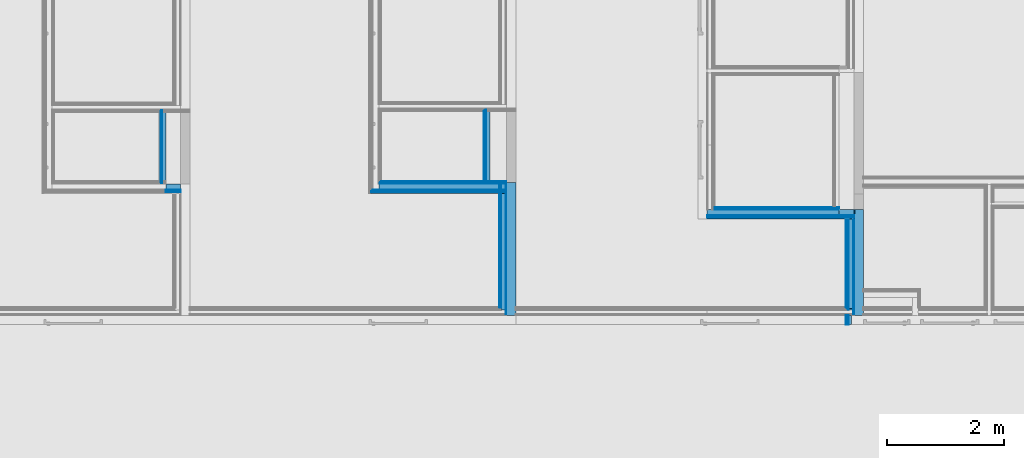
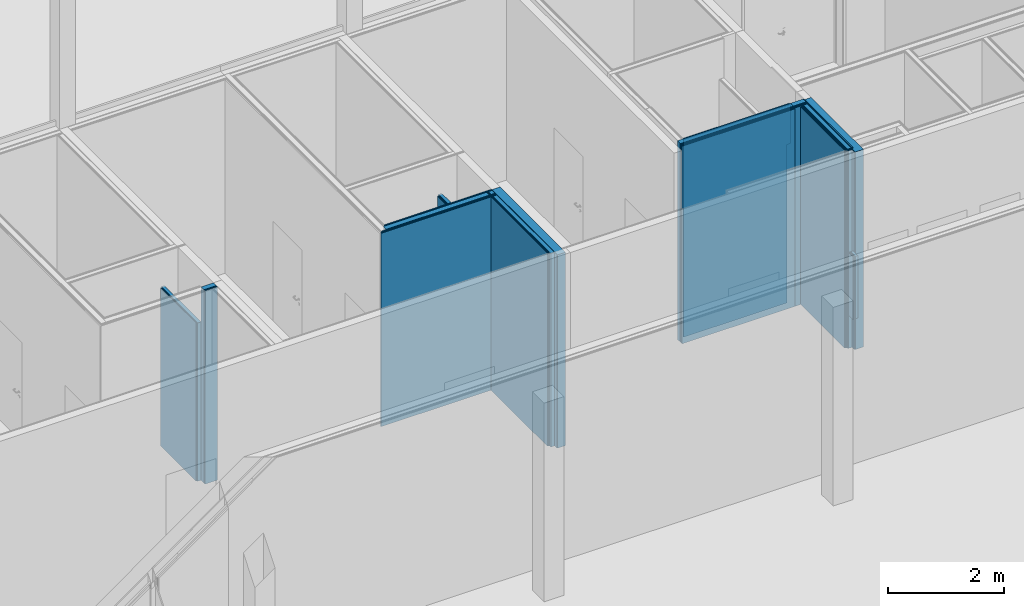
# One storey, part 161 of 260: 45 building element parts, 8 elements without a shape of their own.
"""IFC2X3 building model written with IfcOpenShell, lengths in millimetres."""

import ifcopenshell
import ifcopenshell.guid

model = None  # the IFC model being written
_history = None  # IfcOwnerHistory: only IFC2X3 demands one
_inside = {}  # id of a spatial element -> (the spatial element, [elements in it])
_under = {}  # id of a project, library or spatial element -> (it, [spatial elements below it])
_declared = {}  # id of a project -> (the project, [libraries it declares])
_typed = {}  # id of a type object -> (the type object, [elements of that type])
_made_of = {}  # id of a material, layer set ... -> (it, [elements and type objects made of it])


def new_model(schema):
    """Start an empty IFC model of exactly this schema.

    Asked for "IFC4X3", IfcOpenShell would pick the latest addendum, in which some entities
    have other attributes; the version numbers below select the first issue.
    IFC2X3 requires an IfcOwnerHistory on every rooted entity: one is made here for all.
    """
    global model, _history
    if schema == "IFC4X3":
        model = ifcopenshell.file(schema_version=(4, 3, 0, 0))
    else:
        model = ifcopenshell.file(schema=schema)
    _inside.clear()
    _under.clear()
    _declared.clear()
    _typed.clear()
    _made_of.clear()
    _history = None
    if model.schema == "IFC2X3":
        org = make("IfcOrganization", Name="unknown")
        user = make(
            "IfcPersonAndOrganization",
            ThePerson=make("IfcPerson", FamilyName="unknown"),
            TheOrganization=org,
        )
        app = make(
            "IfcApplication",
            ApplicationDeveloper=org,
            Version="unknown",
            ApplicationFullName="unknown",
            ApplicationIdentifier="unknown",
        )
        _history = make(
            "IfcOwnerHistory",
            OwningUser=user,
            OwningApplication=app,
            ChangeAction="ADDED",
            CreationDate=0,
        )
    return model


def make(cls, **values):
    """One entity of the class cls with the attributes given. An attribute that is None is left unset."""
    return model.create_entity(
        cls, **{name: value for name, value in values.items() if value is not None}
    )


def entity(cls, *values):
    """Any entity or typed value of the class cls, its attributes in the order of the schema. None: left unset."""
    e = model.create_entity(cls)
    for i, value in enumerate(values):
        if value is not None:
            e[i] = value
    return e


def rooted(cls, **values):
    """An entity with a GlobalId (a new one), such as an element, a storey or a relation."""
    return make(cls, GlobalId=ifcopenshell.guid.new(), OwnerHistory=_history, **values)


def si_unit(unit_type, name, prefix=None):
    """IfcSIUnit, for example si_unit("LENGTHUNIT", "METRE", prefix="MILLI")."""
    return make("IfcSIUnit", UnitType=unit_type, Prefix=prefix, Name=name)


def converted_unit(unit_type, name, factor, base, dimensions=None, offset=None):
    """IfcConversionBasedUnit, such as the inch: factor (a typed value) times the base unit."""
    return make(
        "IfcConversionBasedUnit"
        if offset is None
        else "IfcConversionBasedUnitWithOffset",
        ConversionOffset=offset,
        Dimensions=None
        if dimensions is None
        else entity("IfcDimensionalExponents", *dimensions),
        UnitType=unit_type,
        Name=name,
        ConversionFactor=make(
            "IfcMeasureWithUnit", ValueComponent=factor, UnitComponent=base
        ),
    )


def derived_unit(unit_type, elements):
    """IfcDerivedUnit: a product of units, each with its exponent."""
    return make(
        "IfcDerivedUnit",
        Elements=[
            make("IfcDerivedUnitElement", Unit=unit, Exponent=power)
            for unit, power in elements
        ],
        UnitType=unit_type,
    )


def money_unit(currency):
    """IfcMonetaryUnit."""
    return make("IfcMonetaryUnit", Currency=currency)


def assignment(units):
    """IfcUnitAssignment: the units of a project."""
    return None if units is None else make("IfcUnitAssignment", Units=units)


def point(xyz):
    """IfcCartesianPoint."""
    return None if xyz is None else make("IfcCartesianPoint", Coordinates=xyz)


def direction(xyz):
    """IfcDirection."""
    return None if xyz is None else make("IfcDirection", DirectionRatios=xyz)


def frame(location, z_axis=None, x_axis=None):
    """IfcAxis2Placement3D, a coordinate frame: its origin and axes. An axis left out is left unset."""
    return make(
        "IfcAxis2Placement3D",
        Location=point(location),
        Axis=direction(z_axis),
        RefDirection=direction(x_axis),
    )


def origin_with_axes():
    """The frame at (0, 0, 0) with the z axis (0, 0, 1) and the x axis (1, 0, 0) written out."""
    return frame((0.0, 0.0, 0.0), z_axis=(0.0, 0.0, 1.0), x_axis=(1.0, 0.0, 0.0))


def place(relative_to, where):
    """IfcLocalPlacement: puts the frame where relative to a parent placement (None: the world)."""
    return make(
        "IfcLocalPlacement", PlacementRelTo=relative_to, RelativePlacement=where
    )


def context(
    kind, dimensions, precision=None, world=None, true_north=None, identifier=None
):
    """IfcGeometricRepresentationContext, for example the 3D "Model" context."""
    return make(
        "IfcGeometricRepresentationContext",
        ContextIdentifier=identifier,
        ContextType=kind,
        CoordinateSpaceDimension=dimensions,
        Precision=precision,
        WorldCoordinateSystem=world,
        TrueNorth=true_north,
    )


def subcontext(parent, identifier, kind, view, scale=None):
    """IfcGeometricRepresentationSubContext, for example "Body" below "Model"."""
    return make(
        "IfcGeometricRepresentationSubContext",
        ContextIdentifier=identifier,
        ContextType=kind,
        ParentContext=parent,
        TargetScale=scale,
        TargetView=view,
    )


def project(units=None, contexts=None):
    """IfcProject with its units and contexts."""
    return rooted(
        "IfcProject",
        Name="project",
        RepresentationContexts=contexts,
        UnitsInContext=assignment(units),
    )


def spatial(cls, under=None, at=None, **own):
    """A site, building, storey or space (cls), placed at a placement, below another one or the project."""
    s = rooted(cls, ObjectPlacement=at, **own)
    if under is not None:
        _under.setdefault(under.id(), (under, []))[1].append(s)
    return s


def faces_of(points, faces, orient=None, outer=None):
    """IfcFace entities. A face is a list of loops; a loop is a list of indices into points, from 0.

    orient and outer hold one flag for each loop. By default every Orientation is true, the
    first loop of a face is its IfcFaceOuterBound and the others are IfcFaceBound.
    """
    made = []
    for i, loops in enumerate(faces):
        bounds = []
        for j, loop in enumerate(loops):
            is_outer = j == 0 if outer is None else outer[i][j]
            bounds.append(
                make(
                    "IfcFaceOuterBound" if is_outer else "IfcFaceBound",
                    Bound=make("IfcPolyLoop", Polygon=[points[k] for k in loop]),
                    Orientation=True if orient is None else orient[i][j],
                )
            )
        made.append(make("IfcFace", Bounds=bounds))
    return made


def faceted_brep(points, faces, orient=None, outer=None, voids=None):
    """IfcFacetedBrep: a solid bounded by flat faces; with voids (closed shells), ...WithVoids."""
    shared = [point(p) for p in points]
    hull = make("IfcClosedShell", CfsFaces=faces_of(shared, faces, orient, outer))
    if voids is None:
        return make("IfcFacetedBrep", Outer=hull)
    return make(
        "IfcFacetedBrepWithVoids",
        Outer=hull,
        Voids=[
            make(cls, CfsFaces=faces_of(shared, fs, o, b)) for cls, fs, o, b in voids
        ],
    )


def shape(context_of_items, identifier, shape_type, items):
    """IfcShapeRepresentation: the items that make up one representation, for example the "Body"."""
    return make(
        "IfcShapeRepresentation",
        ContextOfItems=context_of_items,
        RepresentationIdentifier=identifier,
        RepresentationType=shape_type,
        Items=items,
    )


def material(Name=None, Category=None):
    """IfcMaterial."""
    return make("IfcMaterial", Name=Name, Category=Category)


def made_of(thing, what):
    """Note that an element or type object is made of a material, layer set ...; save() writes the relation."""
    if what is not None:
        _made_of.setdefault(what.id(), (what, []))[1].append(thing)
    return thing


def type_object(cls, material=None, **own):
    """A type object (cls), such as IfcWallType, which elements share."""
    return made_of(rooted(cls, **own), material)


def element(
    cls,
    number,
    at=None,
    inside=None,
    cuts=None,
    type_object=None,
    material=None,
    context=None,
    identifier="Body",
    shape_type=None,
    held_by="IfcProductDefinitionShape",
    body=None,
    shapes=None,
    **own,
):
    """One element of the class cls, such as IfcWall. Its Tag is "e" and its number.

    at: its placement. inside: the storey or other place that contains it. cuts: it is an
    opening in that element (IfcRelVoidsElement). A single representation is given by context,
    identifier, shape_type and body (its items); several are given by shapes. held_by: the class
    of the entity that holds the representations. save() writes the other relations.
    """
    e = rooted(cls, Tag="e%d" % number, ObjectPlacement=at, **own)
    if body is not None:
        shapes = [shape(context, identifier, shape_type, body)]
    if shapes is not None:
        e.Representation = make(held_by, Representations=shapes)
    if inside is not None:
        _inside.setdefault(inside.id(), (inside, []))[1].append(e)
    if cuts is not None:
        rooted(
            "IfcRelVoidsElement", RelatingBuildingElement=cuts, RelatedOpeningElement=e
        )
    if type_object is not None:
        _typed.setdefault(type_object.id(), (type_object, []))[1].append(e)
    return made_of(e, material)


def aggregate(whole, parts):
    """IfcRelAggregates: a whole, such as a stair, and the parts it consists of."""
    return rooted("IfcRelAggregates", RelatingObject=whole, RelatedObjects=parts)


def save(model, path):
    """Write the relations noted so far, then the file.

    IfcRelAggregates (storeys below a building ...), IfcRelContainedInSpatialStructure (elements
    in a storey), IfcRelDefinesByType, IfcRelAssociatesMaterial and IfcRelDeclares: one each for
    every whole, place, type object, material and project.
    """
    for whole, parts in _under.values():
        aggregate(whole, parts)
    for where, things in _inside.values():
        rooted(
            "IfcRelContainedInSpatialStructure",
            RelatedElements=things,
            RelatingStructure=where,
        )
    for kind, things in _typed.values():
        rooted("IfcRelDefinesByType", RelatedObjects=things, RelatingType=kind)
    for what, things in _made_of.values():
        rooted("IfcRelAssociatesMaterial", RelatedObjects=things, RelatingMaterial=what)
    for by, libraries in _declared.values():
        rooted("IfcRelDeclares", RelatingContext=by, RelatedDefinitions=libraries)
    model.write(path)


model = new_model("IFC2X3")

# Units and contexts
model_context = context("Model", 3, precision=0.01, world=origin_with_axes(), true_north=direction((0.0, 1.0)))
body_context = subcontext(model_context, "Body", "Model", "MODEL_VIEW")
ifc_project = project(units=[si_unit("LENGTHUNIT", "METRE", prefix="MILLI"), si_unit("AREAUNIT", "SQUARE_METRE"), si_unit("VOLUMEUNIT", "CUBIC_METRE"), converted_unit("PLANEANGLEUNIT", "DEGREE", entity("IfcPlaneAngleMeasure", 0.0174532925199), si_unit("PLANEANGLEUNIT", "RADIAN"), dimensions=[0, 0, 0, 0, 0, 0, 0]), money_unit("EUR"), converted_unit("TIMEUNIT", "Year", entity("IfcTimeMeasure", 31556926.0), si_unit("TIMEUNIT", "SECOND"), dimensions=[0, 0, 1, 0, 0, 0, 0]), si_unit("MASSUNIT", "GRAM", prefix="KILO"), si_unit("THERMODYNAMICTEMPERATUREUNIT", "DEGREE_CELSIUS"), si_unit("LUMINOUSINTENSITYUNIT", "LUMEN"), si_unit("ENERGYUNIT", "JOULE", prefix="MEGA"), derived_unit("THERMALCONDUCTANCEUNIT", [(si_unit("POWERUNIT", "WATT"), 1), (si_unit("LENGTHUNIT", "METRE"), -1), (si_unit("THERMODYNAMICTEMPERATUREUNIT", "KELVIN"), -1)]), derived_unit("SPECIFICHEATCAPACITYUNIT", [(si_unit("ENERGYUNIT", "JOULE"), 1), (si_unit("MASSUNIT", "GRAM", prefix="KILO"), -1), (si_unit("THERMODYNAMICTEMPERATUREUNIT", "KELVIN"), -1)]), derived_unit("MASSDENSITYUNIT", [(si_unit("MASSUNIT", "GRAM", prefix="KILO"), 1), (si_unit("VOLUMEUNIT", "CUBIC_METRE"), -1)])], contexts=[model_context])

# Site, building, storey
site_placement = place(None, origin_with_axes())
site = spatial("IfcSite", under=ifc_project, at=site_placement, Name="Kolde pst 67a", CompositionType="ELEMENT")
building_placement = place(site_placement, origin_with_axes())
building = spatial("IfcBuilding", under=site, at=building_placement, Name="Riigigümnaasium", CompositionType="ELEMENT")
storey_placement = place(building_placement, origin_with_axes())
storey = spatial("IfcBuildingStorey", under=building, at=storey_placement, Name="1. korrus", CompositionType="ELEMENT", Elevation=0.0)

# Wall, building element parts
wall_type_1 = type_object("IfcWallType", Name="SS-PK-10/2_vill100+dold+plaat 200", PredefinedType="NOTDEFINED")
wall_1_placement = place(storey_placement, frame((18627.4872525, 61798.0043302, 0.0), z_axis=(0.0, 0.0, 1.0), x_axis=(1.0, 0.0, 0.0)))
wall_1 = element("IfcWall", 1, at=wall_1_placement, inside=storey, type_object=wall_type_1, Name="Sisesein")
ifc_material_1 = material(Name="_VIIMISTLUSKIHT - viimistlus vastavalt SA osale")
building_element_part_1_placement = place(wall_1_placement, origin_with_axes())
building_element_part_1 = element("IfcBuildingElementPart", 2, at=building_element_part_1_placement, material=ifc_material_1, Name="_VIIMISTLUSKIHT - viimistlus vastavalt SA osale", context=body_context, shape_type="Brep", body=[
    faceted_brep([(0.0, 0.0, 4080.0), (2141.0, 0.0, 4080.0), (2141.0, 0.0, 0.0), (1862.00000006, 0.0, 0.0), (1862.00000006, 0.0, 3340.0), (1771.00000006, 0.0, 3340.0), (1771.00000006, 0.0, 0.0), (0.0, 0.0, 0.0), (2141.0, -15.0, 4080.0), (0.0, -15.0, 4080.0), (2141.0, -15.0, 0.0), (1862.00000006, -15.0, 0.0), (1862.00000006, -15.0, 3340.0), (1771.00000006, -15.0, 3340.0), (1771.00000006, -15.0, 0.0), (0.0, -15.0, 0.0)], [[[0, 1, 2, 3, 4, 5, 6, 7]], [[8, 1, 0, 9]], [[1, 8, 10, 2]], [[10, 11, 3, 2]], [[12, 4, 3, 11]], [[4, 12, 13, 5]], [[14, 6, 5, 13]], [[7, 6, 14, 15]], [[9, 0, 7, 15]], [[8, 9, 15, 14, 13, 12, 11, 10]]]),
])
ifc_material_2 = material(Name="_PLAATMATERJAL - kipsplaat veekindel")
building_element_part_2_placement = place(wall_1_placement, origin_with_axes())
building_element_part_2 = element("IfcBuildingElementPart", 3, at=building_element_part_2_placement, material=ifc_material_2, Name="_PLAATMATERJAL - kipsplaat veekindel", context=body_context, shape_type="Brep", body=[
    faceted_brep([(-15.0, -15.0, 4080.0), (2141.0, -15.0, 4080.0), (2141.0, -15.0, 0.0), (1862.00000006, -15.0, 0.0), (1862.00000006, -15.0, 3340.0), (1783.50000006, -15.0, 3340.0), (1783.50000006, -15.0, 0.0), (-15.0, -15.0, 0.0), (2141.0, -27.5, 4080.0), (-15.0, -27.5, 4080.0), (2141.0, -27.5, 0.0), (1862.00000006, -27.5, 0.0), (1862.00000006, -27.5, 3340.0), (1783.50000006, -27.5, 3340.0), (1783.50000006, -27.5, 0.0), (-15.0, -27.5, 0.0)], [[[0, 1, 2, 3, 4, 5, 6, 7]], [[8, 1, 0, 9]], [[1, 8, 10, 2]], [[10, 11, 3, 2]], [[12, 4, 3, 11]], [[4, 12, 13, 5]], [[14, 6, 5, 13]], [[7, 6, 14, 15]], [[9, 0, 7, 15]], [[8, 9, 15, 14, 13, 12, 11, 10]]]),
])
building_element_part_3_placement = place(wall_1_placement, origin_with_axes())
building_element_part_3 = element("IfcBuildingElementPart", 4, at=building_element_part_3_placement, material=ifc_material_2, Name="_PLAATMATERJAL - kipsplaat veekindel", context=body_context, shape_type="Brep", body=[
    faceted_brep([(-27.5, -27.5, 4080.0), (2141.0, -27.5, 4080.0), (2141.0, -27.5, 0.0), (1862.00000006, -27.5, 0.0), (1862.00000006, -27.5, 3340.0), (1796.00000006, -27.5, 3340.0), (1796.00000006, -27.5, 0.0), (-27.5, -27.5, 0.0), (2141.0, -40.0, 4080.0), (-27.5, -40.0, 4080.0), (2141.0, -40.0, 0.0), (1862.00000006, -40.0, 0.0), (1862.00000006, -40.0, 3340.0), (1796.00000006, -40.0, 3340.0), (1796.00000006, -40.0, 0.0), (-27.5, -40.0, 0.0)], [[[0, 1, 2, 3, 4, 5, 6, 7]], [[8, 1, 0, 9]], [[1, 8, 10, 2]], [[10, 11, 3, 2]], [[12, 4, 3, 11]], [[13, 5, 4, 12]], [[14, 6, 5, 13]], [[7, 6, 14, 15]], [[9, 0, 7, 15]], [[8, 9, 15, 14, 13, 12, 11, 10]]]),
])
ifc_material_3 = material(Name="_KARKASS - puitpruss 100x50mm vertikaalne, samm 600mm, vahel mineraalvill, helineeldetegur αw = 1.0, ISOVER ACOUSTIC 100mm või samaväärne")
building_element_part_4_placement = place(wall_1_placement, origin_with_axes())
building_element_part_4 = element("IfcBuildingElementPart", 5, at=building_element_part_4_placement, material=ifc_material_3, Name="_KARKASS - puitpruss 100x50mm vertikaalne, samm 600mm, vahel mineraalvill, helineeldetegur αw = 1.0, ISOVER ACOUSTIC 100mm või samaväärne", context=body_context, shape_type="Brep", body=[
    faceted_brep([(-40.0, -40.0, 4080.0), (2141.0, -40.0, 4080.0), (2141.0, -40.0, 0.0), (-40.0, -40.0, 0.0), (2141.0, -140.0, 4080.0), (-40.0, -140.0, 4080.0), (2141.0, -140.0, 0.0), (-40.0, -140.0, 0.0)], [[[0, 1, 2, 3]], [[4, 1, 0, 5]], [[1, 4, 6, 2]], [[2, 6, 7, 3]], [[5, 0, 3, 7]], [[4, 5, 7, 6]]]),
])
ifc_material_4 = material(Name="_PLAATMATERJAL - tuletõkkekipsplaat, Knauf Red GKF või samaväärne")
building_element_part_5_placement = place(wall_1_placement, origin_with_axes())
building_element_part_5 = element("IfcBuildingElementPart", 6, at=building_element_part_5_placement, material=ifc_material_4, Name="_PLAATMATERJAL - tuletõkkekipsplaat, Knauf Red GKF või samaväärne", context=body_context, shape_type="Brep", body=[
    faceted_brep([(-140.0, -140.0, 4080.0), (2141.0, -140.0, 4080.0), (2141.0, -140.0, 0.0), (-140.0, -140.0, 0.0), (2141.0, -155.0, 4080.0), (-140.0, -155.0, 4080.0), (2141.0, -155.0, 0.0), (-140.0, -155.0, 0.0)], [[[0, 1, 2, 3]], [[4, 1, 0, 5]], [[1, 4, 6, 2]], [[2, 6, 7, 3]], [[5, 0, 3, 7]], [[4, 5, 7, 6]]]),
])
building_element_part_6_placement = place(wall_1_placement, origin_with_axes())
building_element_part_6 = element("IfcBuildingElementPart", 7, at=building_element_part_6_placement, material=ifc_material_4, Name="_PLAATMATERJAL - tuletõkkekipsplaat, Knauf Red GKF või samaväärne", context=body_context, shape_type="Brep", body=[
    faceted_brep([(-155.0, -155.0, 4080.0), (2141.0, -155.0, 4080.0), (2141.0, -155.0, 0.0), (-155.0, -155.0, 0.0), (2141.0, -170.0, 4080.0), (-155.0, -170.0, 4080.0), (2141.0, -170.0, 0.0), (-155.0, -170.0, 0.0)], [[[0, 1, 2, 3]], [[4, 1, 0, 5]], [[1, 4, 6, 2]], [[2, 6, 7, 3]], [[5, 0, 3, 7]], [[4, 5, 7, 6]]]),
])
ifc_material_5 = material(Name="_KARKASS - eriprofiilkinnitus vastavalt sisemisele plaatviimistlusele")
building_element_part_7_placement = place(wall_1_placement, origin_with_axes())
building_element_part_7 = element("IfcBuildingElementPart", 8, at=building_element_part_7_placement, material=ifc_material_5, Name="_KARKASS - eriprofiilkinnitus vastavalt sisemisele plaatviimistlusele", context=body_context, shape_type="Brep", body=[
    faceted_brep([(-170.0, -170.0, 4080.0), (2141.0, -170.0, 4080.0), (2141.0, -170.0, 0.0), (-170.0, -170.0, 0.0), (2141.0, -180.0, 4080.0), (-170.0, -180.0, 4080.0), (2141.0, -180.0, 0.0), (-170.0, -180.0, 0.0)], [[[0, 1, 2, 3]], [[4, 1, 0, 5]], [[1, 4, 6, 2]], [[2, 6, 7, 3]], [[5, 0, 3, 7]], [[4, 5, 7, 6]]]),
])
building_element_part_8_placement = place(wall_1_placement, origin_with_axes())
building_element_part_8 = element("IfcBuildingElementPart", 9, at=building_element_part_8_placement, material=ifc_material_1, Name="_VIIMISTLUSKIHT - viimistlus vastavalt SA osale", context=body_context, shape_type="Brep", body=[
    faceted_brep([(-180.0, -180.0, 4080.0), (2141.0, -180.0, 4080.0), (2141.0, -180.0, 0.0), (-180.0, -180.0, 0.0), (2141.0, -200.0, 4080.0), (-180.0, -200.0, 4080.0), (2141.0, -200.0, 0.0), (-180.0, -200.0, 0.0)], [[[0, 1, 2, 3]], [[4, 1, 0, 5]], [[1, 4, 6, 2]], [[2, 6, 7, 3]], [[5, 0, 3, 7]], [[4, 5, 7, 6]]]),
])
aggregate(wall_1, [building_element_part_1, building_element_part_2, building_element_part_3, building_element_part_4, building_element_part_5, building_element_part_6, building_element_part_7, building_element_part_8])

wall_type_2 = type_object("IfcWallType", Name="SS-MK-66/3_šahti sein+plaat 106", PredefinedType="NOTDEFINED")
wall_2_placement = place(storey_placement, frame((20383.4872526, 63154.0579697, 0.0), z_axis=(0.0, 0.0, 1.0), x_axis=(0.0, -1.0, 0.0)))
wall_2 = element("IfcWall", 10, at=wall_2_placement, inside=storey, type_object=wall_type_2, Name="Varisein")
ifc_material_6 = material(Name="_KARKASS - metallkarkass CW 75/50, mineraalvill karkassi vahel")
building_element_part_9_placement = place(wall_2_placement, origin_with_axes())
building_element_part_9 = element("IfcBuildingElementPart", 11, at=building_element_part_9_placement, material=ifc_material_6, Name="_KARKASS - metallkarkass CW 75/50, mineraalvill karkassi vahel", context=body_context, shape_type="Brep", body=[
    faceted_brep([(1396.0536395, 40.0, 0.0), (115.0, 40.0, 0.0), (115.0, 106.0, 0.0), (1396.0536395, 106.0, 0.0), (1396.0536395, 40.0, 3340.0), (115.0, 40.0, 3340.0), (115.0, 106.0, 3340.0), (1396.0536395, 106.0, 3340.0)], [[[0, 1, 2, 3]], [[4, 5, 1, 0]], [[2, 1, 5, 6]], [[3, 2, 6, 7]], [[3, 7, 4, 0]], [[7, 6, 5, 4]]]),
])
building_element_part_10_placement = place(wall_2_placement, origin_with_axes())
building_element_part_10 = element("IfcBuildingElementPart", 12, at=building_element_part_10_placement, material=ifc_material_2, Name="_PLAATMATERJAL - kipsplaat veekindel", context=body_context, shape_type="Brep", body=[
    faceted_brep([(1383.5536395, 27.5, 0.0), (127.5, 27.5, 0.0), (127.5, 40.0, 0.0), (1383.5536395, 40.0, 0.0), (1383.5536395, 27.5, 3340.0), (127.5, 27.5, 3340.0), (127.5, 40.0, 3340.0), (1383.5536395, 40.0, 3340.0)], [[[0, 1, 2, 3]], [[4, 5, 1, 0]], [[2, 1, 5, 6]], [[3, 2, 6, 7]], [[3, 7, 4, 0]], [[7, 6, 5, 4]]]),
])
building_element_part_11_placement = place(wall_2_placement, origin_with_axes())
building_element_part_11 = element("IfcBuildingElementPart", 13, at=building_element_part_11_placement, material=ifc_material_2, Name="_PLAATMATERJAL - kipsplaat veekindel", context=body_context, shape_type="Brep", body=[
    faceted_brep([(1371.0536395, 15.0, 0.0), (140.0, 15.0, 0.0), (140.0, 27.5, 0.0), (1371.0536395, 27.5, 0.0), (1371.0536395, 15.0, 3340.0), (140.0, 15.0, 3340.0), (140.0, 27.5, 3340.0), (1371.0536395, 27.5, 3340.0)], [[[0, 1, 2, 3]], [[4, 5, 1, 0]], [[2, 1, 5, 6]], [[3, 2, 6, 7]], [[3, 7, 4, 0]], [[7, 6, 5, 4]]]),
])
building_element_part_12_placement = place(wall_2_placement, origin_with_axes())
building_element_part_12 = element("IfcBuildingElementPart", 14, at=building_element_part_12_placement, material=ifc_material_1, Name="_VIIMISTLUSKIHT - viimistlus vastavalt SA osale", context=body_context, shape_type="Brep", body=[
    faceted_brep([(1356.0536395, 0.0, 0.0), (155.0, 0.0, 0.0), (155.0, 15.0, 0.0), (1356.0536395, 15.0, 0.0), (1356.0536395, 0.0, 3340.0), (155.0, 0.0, 3340.0), (155.0, 15.0, 3340.0), (1356.0536395, 15.0, 3340.0)], [[[0, 1, 2, 3]], [[4, 5, 1, 0]], [[2, 1, 5, 6]], [[3, 2, 6, 7]], [[3, 7, 4, 0]], [[7, 6, 5, 4]]]),
])
aggregate(wall_2, [building_element_part_9, building_element_part_10, building_element_part_11, building_element_part_12])

wall_3_placement = place(storey_placement, frame((14842.7402149, 63139.5592997, 0.0), z_axis=(0.0, 0.0, 1.0), x_axis=(0.0, -1.0, 0.0)))
wall_3 = element("IfcWall", 15, at=wall_3_placement, inside=storey, type_object=wall_type_2, Name="Varisein")
building_element_part_13_placement = place(wall_3_placement, origin_with_axes())
building_element_part_13 = element("IfcBuildingElementPart", 16, at=building_element_part_13_placement, material=ifc_material_6, Name="_KARKASS - metallkarkass CW 75/50, mineraalvill karkassi vahel", context=body_context, shape_type="Brep", body=[
    faceted_brep([(1381.5536395, 40.0, 0.0), (115.0, 40.0, 0.0), (115.0, 106.0, 0.0), (1381.5536395, 106.0, 0.0), (1381.5536395, 40.0, 3340.0), (115.0, 40.0, 3340.0), (115.0, 106.0, 3340.0), (1381.5536395, 106.0, 3340.0)], [[[0, 1, 2, 3]], [[4, 5, 1, 0]], [[2, 1, 5, 6]], [[3, 2, 6, 7]], [[3, 7, 4, 0]], [[7, 6, 5, 4]]]),
])
building_element_part_14_placement = place(wall_3_placement, origin_with_axes())
building_element_part_14 = element("IfcBuildingElementPart", 17, at=building_element_part_14_placement, material=ifc_material_2, Name="_PLAATMATERJAL - kipsplaat veekindel", context=body_context, shape_type="Brep", body=[
    faceted_brep([(1369.0536395, 27.5, 0.0), (127.5, 27.5, 0.0), (127.5, 40.0, 0.0), (1369.0536395, 40.0, 0.0), (1369.0536395, 27.5, 3340.0), (127.5, 27.5, 3340.0), (127.5, 40.0, 3340.0), (1369.0536395, 40.0, 3340.0)], [[[0, 1, 2, 3]], [[4, 5, 1, 0]], [[2, 1, 5, 6]], [[3, 2, 6, 7]], [[3, 7, 4, 0]], [[7, 6, 5, 4]]]),
])
building_element_part_15_placement = place(wall_3_placement, origin_with_axes())
building_element_part_15 = element("IfcBuildingElementPart", 18, at=building_element_part_15_placement, material=ifc_material_2, Name="_PLAATMATERJAL - kipsplaat veekindel", context=body_context, shape_type="Brep", body=[
    faceted_brep([(1356.5536395, 15.0, 0.0), (140.0, 15.0, 0.0), (140.0, 27.5, 0.0), (1356.5536395, 27.5, 0.0), (1356.5536395, 15.0, 3340.0), (140.0, 15.0, 3340.0), (140.0, 27.5, 3340.0), (1356.5536395, 27.5, 3340.0)], [[[0, 1, 2, 3]], [[4, 5, 1, 0]], [[2, 1, 5, 6]], [[3, 2, 6, 7]], [[3, 7, 4, 0]], [[7, 6, 5, 4]]]),
])
aggregate(wall_3, [building_element_part_13, building_element_part_14, building_element_part_15])

wall_type_3 = type_object("IfcWallType", Name="SS-MK-10/4_šahti sein+dold  160", PredefinedType="NOTDEFINED")
wall_4_placement = place(storey_placement, frame((26869.99923, 61159.0132656, 0.0), z_axis=(0.0, 0.0, 1.0), x_axis=(-1.0, 0.0, 0.0)))
wall_4 = element("IfcWall", 19, at=wall_4_placement, inside=storey, type_object=wall_type_3, Name="Sisesein")
ifc_material_7 = material(Name="_VIIMISTLUSKIHT - Dold plaat vastavalt SA osale")
building_element_part_16_placement = place(wall_4_placement, origin_with_axes())
building_element_part_16 = element("IfcBuildingElementPart", 20, at=building_element_part_16_placement, material=ifc_material_7, Name="_VIIMISTLUSKIHT - Dold plaat vastavalt SA osale", context=body_context, shape_type="Brep", body=[
    faceted_brep([(160.0, -20.0, 4190.0), (414.0, -20.0, 4190.0), (414.0, 0.0, 4190.0), (160.0, 0.0, 4190.0), (160.0, -20.0, 0.0), (414.0, -20.0, 0.0), (414.0, 0.0, 0.0), (160.0, 0.0, 0.0)], [[[0, 1, 2, 3]], [[4, 5, 1, 0]], [[2, 1, 5, 6]], [[3, 2, 6, 7]], [[4, 0, 3, 7]], [[7, 6, 5, 4]]]),
])
building_element_part_17_placement = place(wall_4_placement, origin_with_axes())
building_element_part_17 = element("IfcBuildingElementPart", 21, at=building_element_part_17_placement, material=ifc_material_5, Name="_KARKASS - eriprofiilkinnitus vastavalt sisemisele plaatviimistlusele", context=body_context, shape_type="Brep", body=[
    faceted_brep([(160.0, -30.0, 4190.0), (414.0, -30.0, 4190.0), (414.0, -20.0, 4190.0), (160.0, -20.0, 4190.0), (160.0, -30.0, 0.0), (414.0, -30.0, 0.0), (414.0, -20.0, 0.0), (160.0, -20.0, 0.0)], [[[0, 1, 2, 3]], [[4, 5, 1, 0]], [[2, 1, 5, 6]], [[3, 2, 6, 7]], [[4, 0, 3, 7]], [[7, 6, 5, 4]]]),
])
building_element_part_18_placement = place(wall_4_placement, origin_with_axes())
building_element_part_18 = element("IfcBuildingElementPart", 22, at=building_element_part_18_placement, material=ifc_material_4, Name="_PLAATMATERJAL - tuletõkkekipsplaat, Knauf Red GKF või samaväärne", context=body_context, shape_type="Brep", body=[
    faceted_brep([(160.0, -45.0, 4190.0), (414.0, -45.0, 4190.0), (414.0, -30.0, 4190.0), (160.0, -30.0, 4190.0), (160.0, -45.0, 0.0), (414.0, -45.0, 0.0), (414.0, -30.0, 0.0), (160.0, -30.0, 0.0)], [[[0, 1, 2, 3]], [[4, 5, 1, 0]], [[2, 1, 5, 6]], [[3, 2, 6, 7]], [[4, 0, 3, 7]], [[7, 6, 5, 4]]]),
])
building_element_part_19_placement = place(wall_4_placement, origin_with_axes())
building_element_part_19 = element("IfcBuildingElementPart", 23, at=building_element_part_19_placement, material=ifc_material_4, Name="_PLAATMATERJAL - tuletõkkekipsplaat, Knauf Red GKF või samaväärne", context=body_context, shape_type="Brep", body=[
    faceted_brep([(160.0, -60.0, 4190.0), (414.0, -60.0, 4190.0), (414.0, -45.0, 4190.0), (160.0, -45.0, 4190.0), (160.0, -60.0, 0.0), (414.0, -60.0, 0.0), (414.0, -45.0, 0.0), (160.0, -45.0, 0.0)], [[[0, 1, 2, 3]], [[4, 5, 1, 0]], [[2, 1, 5, 6]], [[3, 2, 6, 7]], [[4, 0, 3, 7]], [[7, 6, 5, 4]]]),
])
ifc_material_8 = material(Name="_KARKASS - metallkarkass CW 100/50/06 ja UW 100/40/06, samm 600, vahel mineraalvill, helineeldetegur αw = 1.0,  ISOVER ACOUSTIC 100mm või samaväärne")
building_element_part_20_placement = place(wall_4_placement, origin_with_axes())
building_element_part_20 = element("IfcBuildingElementPart", 24, at=building_element_part_20_placement, material=ifc_material_8, Name="_KARKASS - metallkarkass CW 100/50/06 ja UW 100/40/06, samm 600, vahel mineraalvill, helineeldetegur αw = 1.0,  ISOVER ACOUSTIC 100mm või samaväärne", context=body_context, shape_type="Brep", body=[
    faceted_brep([(160.0, -60.0, 4190.0), (160.0, -160.0, 4190.0), (414.0, -160.0, 4190.0), (414.0, -60.0, 4190.0), (160.0, -60.0, 0.0), (160.0, -160.0, 0.0), (414.0, -160.0, 0.0), (414.0, -60.0, 0.0)], [[[0, 1, 2, 3]], [[4, 5, 1, 0]], [[1, 5, 6, 2]], [[7, 3, 2, 6]], [[4, 0, 3, 7]], [[5, 4, 7, 6]]]),
])
aggregate(wall_4, [building_element_part_16, building_element_part_17, building_element_part_18, building_element_part_19, building_element_part_20])

wall_5_placement = place(storey_placement, frame((15360.0, 61598.0056602, 0.0), z_axis=(0.0, 0.0, 1.0), x_axis=(-1.0, 0.0, 0.0)))
wall_5 = element("IfcWall", 25, at=wall_5_placement, inside=storey, type_object=wall_type_3, Name="Sisesein")
building_element_part_21_placement = place(wall_5_placement, origin_with_axes())
building_element_part_21 = element("IfcBuildingElementPart", 26, at=building_element_part_21_placement, material=ifc_material_5, Name="_KARKASS - eriprofiilkinnitus vastavalt sisemisele plaatviimistlusele", context=body_context, shape_type="Brep", body=[
    faceted_brep([(411.259785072, -30.0, 4080.0), (160.0, -30.0, 4080.0), (160.0, -30.0, 0.0), (411.259785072, -30.0, 0.0), (160.0, -20.0, 4080.0), (411.259785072, -20.0, 4080.0), (160.0, -20.0, 0.0), (411.259785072, -20.0, 0.0)], [[[0, 1, 2, 3]], [[4, 1, 0, 5]], [[1, 4, 6, 2]], [[6, 7, 3, 2]], [[5, 0, 3, 7]], [[4, 5, 7, 6]]]),
])
building_element_part_22_placement = place(wall_5_placement, origin_with_axes())
building_element_part_22 = element("IfcBuildingElementPart", 27, at=building_element_part_22_placement, material=ifc_material_4, Name="_PLAATMATERJAL - tuletõkkekipsplaat, Knauf Red GKF või samaväärne", context=body_context, shape_type="Brep", body=[
    faceted_brep([(411.259785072, -45.0, 4080.0), (160.0, -45.0, 4080.0), (160.0, -45.0, 0.0), (411.259785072, -45.0, 0.0), (160.0, -30.0, 4080.0), (411.259785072, -30.0, 4080.0), (160.0, -30.0, 0.0), (411.259785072, -30.0, 0.0)], [[[0, 1, 2, 3]], [[4, 1, 0, 5]], [[1, 4, 6, 2]], [[6, 7, 3, 2]], [[5, 0, 3, 7]], [[4, 5, 7, 6]]]),
])
building_element_part_23_placement = place(wall_5_placement, origin_with_axes())
building_element_part_23 = element("IfcBuildingElementPart", 28, at=building_element_part_23_placement, material=ifc_material_4, Name="_PLAATMATERJAL - tuletõkkekipsplaat, Knauf Red GKF või samaväärne", context=body_context, shape_type="Brep", body=[
    faceted_brep([(411.259785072, -60.0, 4080.0), (160.0, -60.0, 4080.0), (160.0, -60.0, 0.0), (411.259785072, -60.0, 0.0), (160.0, -45.0, 4080.0), (411.259785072, -45.0, 4080.0), (160.0, -45.0, 0.0), (411.259785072, -45.0, 0.0)], [[[0, 1, 2, 3]], [[4, 1, 0, 5]], [[1, 4, 6, 2]], [[6, 7, 3, 2]], [[5, 0, 3, 7]], [[4, 5, 7, 6]]]),
])
building_element_part_24_placement = place(wall_5_placement, origin_with_axes())
building_element_part_24 = element("IfcBuildingElementPart", 29, at=building_element_part_24_placement, material=ifc_material_8, Name="_KARKASS - metallkarkass CW 100/50/06 ja UW 100/40/06, samm 600, vahel mineraalvill, helineeldetegur αw = 1.0,  ISOVER ACOUSTIC 100mm või samaväärne", context=body_context, shape_type="Brep", body=[
    faceted_brep([(411.259785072, -160.0, 4080.0), (160.0, -160.0, 4080.0), (160.0, -160.0, 0.0), (411.259785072, -160.0, 0.0), (160.0, -60.0, 4080.0), (411.259785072, -60.0, 4080.0), (160.0, -60.0, 0.0), (411.259785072, -60.0, 0.0)], [[[0, 1, 2, 3]], [[4, 1, 0, 5]], [[1, 4, 6, 2]], [[2, 6, 7, 3]], [[5, 0, 3, 7]], [[4, 5, 7, 6]]]),
])
aggregate(wall_5, [building_element_part_21, building_element_part_22, building_element_part_23, building_element_part_24])

wall_type_4 = type_object("IfcWallType", Name="SS-CLT-16/1_vill75+krohv 52 dB 300", PredefinedType="NOTDEFINED")
wall_6_placement = place(storey_placement, frame((26869.99923, 61159.0132656, 0.0), z_axis=(0.0, 0.0, 1.0), x_axis=(0.0, -1.0, 0.0)))
wall_6 = element("IfcWall", 30, at=wall_6_placement, inside=storey, type_object=wall_type_4, Name="Sisesein")
ifc_material_9 = material(Name="_KANDETARIND - CLT ristkihtliimpuit vastavalt EK osale, CLT paigaldusvuugid teibitakse ROTHOBLAAS teibiga")
building_element_part_25_placement = place(wall_6_placement, origin_with_axes())
building_element_part_25 = element("IfcBuildingElementPart", 31, at=building_element_part_25_placement, material=ifc_material_9, Name="_KANDETARIND - CLT ristkihtliimpuit vastavalt EK osale, CLT paigaldusvuugid teibitakse ROTHOBLAAS teibiga", context=body_context, shape_type="Brep", body=[
    faceted_brep([(-160.0, -140.0, 4190.0), (-160.0, -140.0, 4170.0), (-160.0, 0.0, 4170.0), (-160.0, 0.0, 0.0), (-160.0, -160.0, 0.0), (-160.0, -160.0, 4190.0), (1534.01531775, -140.0, 4190.0), (1534.01531775, -140.0, 4170.0), (1649.01531775, 0.0, 4170.0), (1534.01531775, -160.0, 4170.0), (1649.01531775, -160.0, 4170.0), (1649.01531775, 0.0, 0.0), (1649.01531775, -160.0, 0.0), (1534.01531775, -160.0, 4190.0)], [[[0, 1, 2, 3, 4, 5]], [[1, 0, 6, 7]], [[8, 2, 1, 7, 9, 10]], [[2, 8, 11, 3]], [[3, 11, 12, 4]], [[9, 13, 5, 4, 12, 10]], [[6, 0, 5, 13]], [[6, 13, 9, 7]], [[8, 10, 12, 11]]]),
])
ifc_material_10 = material(Name="_ÕHKVAHE")
building_element_part_26_placement = place(wall_6_placement, origin_with_axes())
building_element_part_26 = element("IfcBuildingElementPart", 32, at=building_element_part_26_placement, material=ifc_material_10, Name="_ÕHKVAHE", context=body_context, shape_type="Brep", body=[
    faceted_brep([(1534.01531775, -175.0, 4190.0), (1534.01531775, -160.0, 4190.0), (0.0, -160.0, 4190.0), (0.0, -175.0, 4190.0), (1534.01531775, -160.0, 4170.0), (1534.01531775, -175.0, 4170.0), (1634.01531775, -160.0, 4170.0), (1634.01531775, -160.0, 0.0), (0.0, -160.0, 0.0), (0.0, -175.0, 0.0), (1634.01531775, -175.0, 0.0), (1634.01531775, -175.0, 4170.0)], [[[0, 1, 2, 3]], [[4, 1, 0, 5]], [[4, 6, 7, 8, 2, 1]], [[9, 3, 2, 8]], [[5, 0, 3, 9, 10, 11]], [[6, 4, 5, 11]], [[6, 11, 10, 7]], [[8, 7, 10, 9]]]),
])
ifc_material_11 = material(Name="_KARKASS - metallkarkass CW 75/50/06 ja UW 75/40/06, samm 600, vahel mineraalvill, helineeldetegur αw = 1.0,  ISOVER ACOUSTIC 75mm või samaväärne")
building_element_part_27_placement = place(wall_6_placement, origin_with_axes())
building_element_part_27 = element("IfcBuildingElementPart", 33, at=building_element_part_27_placement, material=ifc_material_11, Name="_KARKASS - metallkarkass CW 75/50/06 ja UW 75/40/06, samm 600, vahel mineraalvill, helineeldetegur αw = 1.0,  ISOVER ACOUSTIC 75mm või samaväärne", context=body_context, shape_type="Brep", body=[
    faceted_brep([(1534.01531775, -250.0, 4190.0), (1534.01531775, -175.0, 4190.0), (0.0, -175.0, 4190.0), (0.0, -250.0, 4190.0), (1534.01531775, -175.0, 4170.0), (1534.01531775, -250.0, 4170.0), (1559.01531775, -175.0, 4170.0), (1559.01531775, -175.0, 0.0), (0.0, -175.0, 0.0), (0.0, -250.0, 0.0), (1559.01531775, -250.0, 0.0), (1559.01531775, -250.0, 4170.0)], [[[0, 1, 2, 3]], [[4, 1, 0, 5]], [[4, 6, 7, 8, 2, 1]], [[9, 3, 2, 8]], [[5, 0, 3, 9, 10, 11]], [[6, 4, 5, 11]], [[6, 11, 10, 7]], [[8, 7, 10, 9]]]),
    faceted_brep([(1649.01531775, -204.999999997, 780.0), (1649.01531775, -204.999999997, 2100.0), (1809.01531775, -204.999999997, 2100.0), (1809.01531775, -204.999999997, 780.0), (1649.01531775, -250.0, 2100.0), (1649.01531775, -250.0, 780.0), (1809.01531775, -250.0, 2100.0), (1809.01531775, -250.0, 780.0)], [[[0, 1, 2, 3]], [[4, 1, 0, 5]], [[1, 4, 6, 2]], [[2, 6, 7, 3]], [[5, 0, 3, 7]], [[4, 5, 7, 6]]]),
])
ifc_material_12 = material(Name="_PLAATMATERJAL - OSB3 plaat")
building_element_part_28_placement = place(wall_6_placement, origin_with_axes())
building_element_part_28 = element("IfcBuildingElementPart", 34, at=building_element_part_28_placement, material=ifc_material_12, Name="_PLAATMATERJAL - OSB3 plaat", context=body_context, shape_type="Brep", body=[
    faceted_brep([(1534.01531775, -260.0, 4190.0), (1534.01531775, -250.0, 4190.0), (0.0, -250.0, 4190.0), (0.0, -260.0, 4190.0), (1534.01531775, -250.0, 4170.0), (1534.01531775, -260.0, 4170.0), (1549.01531775, -250.0, 4170.0), (1549.01531775, -250.0, 0.0), (0.0, -250.0, 0.0), (0.0, -260.0, 0.0), (1549.01531775, -260.0, 0.0), (1549.01531775, -260.0, 4170.0)], [[[0, 1, 2, 3]], [[4, 1, 0, 5]], [[4, 6, 7, 8, 2, 1]], [[9, 3, 2, 8]], [[5, 0, 3, 9, 10, 11]], [[6, 4, 5, 11]], [[6, 11, 10, 7]], [[8, 7, 10, 9]]]),
    faceted_brep([(1649.01531775, -250.0, 780.0), (1649.01531775, -250.0, 2100.0), (1809.01531775, -250.0, 2100.0), (1809.01531775, -250.0, 780.0), (1649.01531775, -260.0, 2100.0), (1649.01531775, -260.0, 780.0), (1809.01531775, -260.0, 2100.0), (1809.01531775, -260.0, 780.0)], [[[0, 1, 2, 3]], [[4, 1, 0, 5]], [[1, 4, 6, 2]], [[2, 6, 7, 3]], [[5, 0, 3, 7]], [[4, 5, 7, 6]]]),
])
building_element_part_29_placement = place(wall_6_placement, origin_with_axes())
building_element_part_29 = element("IfcBuildingElementPart", 35, at=building_element_part_29_placement, material=ifc_material_4, Name="_PLAATMATERJAL - tuletõkkekipsplaat, Knauf Red GKF või samaväärne", context=body_context, shape_type="Brep", body=[
    faceted_brep([(0.0, -275.0, 4185.0), (0.0, -260.0, 4185.0), (0.0, -260.0, 0.0), (0.0, -275.0, 0.0), (1534.01531775, -260.0, 4185.0), (1534.01531775, -275.0, 4185.0), (1534.01531775, -260.0, 0.0), (1534.01531775, -275.0, 0.0)], [[[0, 1, 2, 3]], [[4, 1, 0, 5]], [[1, 4, 6, 2]], [[2, 6, 7, 3]], [[5, 0, 3, 7]], [[4, 5, 7, 6]]]),
    faceted_brep([(1649.01531775, -260.0, 780.0), (1649.01531775, -260.0, 2100.0), (1809.01531775, -260.0, 2100.0), (1809.01531775, -260.0, 780.0), (1649.01531775, -275.0, 2100.0), (1649.01531775, -275.0, 780.0), (1809.01531775, -275.0, 2100.0), (1809.01531775, -275.0, 780.0)], [[[0, 1, 2, 3]], [[4, 1, 0, 5]], [[1, 4, 6, 2]], [[2, 6, 7, 3]], [[5, 0, 3, 7]], [[4, 5, 7, 6]]]),
])
building_element_part_30_placement = place(wall_6_placement, origin_with_axes())
building_element_part_30 = element("IfcBuildingElementPart", 36, at=building_element_part_30_placement, material=ifc_material_4, Name="_PLAATMATERJAL - tuletõkkekipsplaat, Knauf Red GKF või samaväärne", context=body_context, shape_type="Brep", body=[
    faceted_brep([(0.0, -290.0, 4170.0), (0.0, -275.0, 4170.0), (0.0, -275.0, 0.0), (0.0, -290.0, 0.0), (1519.01531775, -275.0, 4170.0), (1519.01531775, -290.0, 4170.0), (1519.01531775, -275.0, 0.0), (1519.01531775, -290.0, 0.0)], [[[0, 1, 2, 3]], [[4, 1, 0, 5]], [[1, 4, 6, 2]], [[2, 6, 7, 3]], [[5, 0, 3, 7]], [[4, 5, 7, 6]]]),
    faceted_brep([(1649.01531775, -275.0, 780.0), (1649.01531775, -275.0, 2100.0), (1809.01531775, -275.0, 2100.0), (1809.01531775, -275.0, 780.0), (1649.01531775, -290.0, 2100.0), (1649.01531775, -290.0, 780.0), (1809.01531775, -290.0, 2100.0), (1809.01531775, -290.0, 780.0)], [[[0, 1, 2, 3]], [[4, 1, 0, 5]], [[1, 4, 6, 2]], [[2, 6, 7, 3]], [[5, 0, 3, 7]], [[4, 5, 7, 6]]]),
])
building_element_part_31_placement = place(wall_6_placement, origin_with_axes())
building_element_part_31 = element("IfcBuildingElementPart", 37, at=building_element_part_31_placement, material=ifc_material_1, Name="_VIIMISTLUSKIHT - viimistlus vastavalt SA osale", context=body_context, shape_type="Brep", body=[
    faceted_brep([(0.0, -300.0, 4170.0), (0.0, -290.0, 4170.0), (0.0, -290.0, 0.0), (0.0, -300.0, 0.0), (1509.01531775, -290.0, 4170.0), (1509.01531775, -300.0, 4170.0), (1509.01531775, -290.0, 0.0), (1509.01531775, -300.0, 0.0)], [[[0, 1, 2, 3]], [[4, 1, 0, 5]], [[1, 4, 6, 2]], [[2, 6, 7, 3]], [[5, 0, 3, 7]], [[4, 5, 7, 6]]]),
    faceted_brep([(1649.01531775, -290.0, 780.0), (1649.01531775, -290.0, 2100.0), (1809.01531775, -290.0, 2100.0), (1809.01531775, -290.0, 780.0), (1649.01531775, -300.0, 2100.0), (1649.01531775, -300.0, 780.0), (1809.01531775, -300.0, 2100.0), (1809.01531775, -300.0, 780.0)], [[[0, 1, 2, 3]], [[4, 1, 0, 5]], [[1, 4, 6, 2]], [[2, 6, 7, 3]], [[5, 0, 3, 7]], [[4, 5, 7, 6]]]),
])
aggregate(wall_6, [building_element_part_25, building_element_part_26, building_element_part_27, building_element_part_28, building_element_part_29, building_element_part_30, building_element_part_31])

wall_type_5 = type_object("IfcWallType", Name="SS-CLT-16/3_vill+plaat märgruumid 285", PredefinedType="NOTDEFINED")
wall_7_placement = place(storey_placement, frame((20928.4872525, 61783.0043302, 0.0), z_axis=(0.0, 0.0, 1.0), x_axis=(0.0, -1.0, 0.0)))
wall_7 = element("IfcWall", 38, at=wall_7_placement, inside=storey, type_object=wall_type_5, Name="Sisesein")
building_element_part_32_placement = place(wall_7_placement, origin_with_axes())
building_element_part_32 = element("IfcBuildingElementPart", 39, at=building_element_part_32_placement, material=ifc_material_9, Name="_KANDETARIND - CLT ristkihtliimpuit vastavalt EK osale, CLT paigaldusvuugid teibitakse ROTHOBLAAS teibiga", context=body_context, shape_type="Brep", body=[
    faceted_brep([(0.0, -160.0, 4080.0), (0.0, 0.0, 4080.0), (0.0, 0.0, 0.0), (0.0, -160.0, 0.0), (2273.00638234, 0.0, 4080.0), (2273.00638234, -160.0, 4080.0), (2273.00638234, 0.0, 2.19774820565e-05), (2273.00638234, -160.0, 2.17785744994e-05)], [[[0, 1, 2, 3]], [[4, 1, 0, 5]], [[1, 4, 6, 2]], [[2, 6, 7, 3]], [[5, 0, 3, 7]], [[4, 5, 7, 6]]]),
])
building_element_part_33_placement = place(wall_7_placement, origin_with_axes())
building_element_part_33 = element("IfcBuildingElementPart", 40, at=building_element_part_33_placement, material=ifc_material_10, Name="_ÕHKVAHE", context=body_context, shape_type="Brep", body=[
    faceted_brep([(0.0, -170.0, 4080.0), (0.0, -160.0, 4080.0), (0.0, -160.0, 0.0), (0.0, -170.0, 0.0), (2258.00638234, -160.0, 4080.0), (2258.00638234, -170.0, 4080.0), (2258.00638234, -160.0, 0.0), (2258.00638234, -170.0, 0.0)], [[[0, 1, 2, 3]], [[4, 1, 0, 5]], [[1, 4, 6, 2]], [[2, 6, 7, 3]], [[5, 0, 3, 7]], [[4, 5, 7, 6]]]),
])
ifc_material_13 = material(Name="_KARKASS - metallkarkass CW 75/50/06 ja UW 75/40/06, samm 600")
building_element_part_34_placement = place(wall_7_placement, origin_with_axes())
building_element_part_34 = element("IfcBuildingElementPart", 41, at=building_element_part_34_placement, material=ifc_material_13, Name="_KARKASS - metallkarkass CW 75/50/06 ja UW 75/40/06, samm 600", context=body_context, shape_type="Brep", body=[
    faceted_brep([(0.0, -245.0, 4080.0), (0.0, -170.0, 4080.0), (0.0, -170.0, 0.0), (0.0, -245.0, 0.0), (2183.00638234, -170.0, 4080.0), (2183.00638234, -245.0, 4080.0), (2183.00638234, -170.0, 2.1766142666e-05), (2183.00638234, -245.0, 2.16729048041e-05)], [[[0, 1, 2, 3]], [[4, 1, 0, 5]], [[1, 4, 6, 2]], [[2, 6, 7, 3]], [[5, 0, 3, 7]], [[4, 5, 7, 6]]]),
])
building_element_part_35_placement = place(wall_7_placement, origin_with_axes())
building_element_part_35 = element("IfcBuildingElementPart", 42, at=building_element_part_35_placement, material=ifc_material_2, Name="_PLAATMATERJAL - kipsplaat veekindel", context=body_context, shape_type="Brep", body=[
    faceted_brep([(0.0, -257.5, 4080.0), (0.0, -245.0, 4080.0), (0.0, -245.0, 0.0), (0.0, -257.5, 0.0), (2143.00638234, -245.0, 4080.0), (2143.00638234, -257.5, 4080.0), (2143.00638234, -245.0, 0.0), (2143.00638234, -257.5, 0.0)], [[[0, 1, 2, 3]], [[4, 1, 0, 5]], [[1, 4, 6, 2]], [[2, 6, 7, 3]], [[5, 0, 3, 7]], [[4, 5, 7, 6]]]),
])
building_element_part_36_placement = place(wall_7_placement, origin_with_axes())
building_element_part_36 = element("IfcBuildingElementPart", 43, at=building_element_part_36_placement, material=ifc_material_2, Name="_PLAATMATERJAL - kipsplaat veekindel", context=body_context, shape_type="Brep", body=[
    faceted_brep([(0.0, -270.0, 4080.0), (0.0, -257.5, 4080.0), (0.0, -257.5, 0.0), (0.0, -270.0, 0.0), (2143.00638234, -257.5, 4080.0), (2143.00638234, -270.0, 4080.0), (2143.00638234, -257.5, 0.0), (2143.00638234, -270.0, 0.0)], [[[0, 1, 2, 3]], [[4, 1, 0, 5]], [[1, 4, 6, 2]], [[2, 6, 7, 3]], [[5, 0, 3, 7]], [[4, 5, 7, 6]]]),
])
building_element_part_37_placement = place(wall_7_placement, origin_with_axes())
building_element_part_37 = element("IfcBuildingElementPart", 44, at=building_element_part_37_placement, material=ifc_material_1, Name="_VIIMISTLUSKIHT - viimistlus vastavalt SA osale", context=body_context, shape_type="Brep", body=[
    faceted_brep([(0.0, -285.0, 4080.0), (0.0, -270.0, 4080.0), (0.0, -270.0, 0.0), (0.0, -285.0, 0.0), (2133.00638234, -270.0, 4080.0), (2133.00638234, -285.0, 4080.0), (2133.00638234, -270.0, 0.0), (2133.00638234, -285.0, 0.0)], [[[0, 1, 2, 3]], [[4, 1, 0, 5]], [[1, 4, 6, 2]], [[2, 6, 7, 3]], [[5, 0, 3, 7]], [[4, 5, 7, 6]]]),
])
aggregate(wall_7, [building_element_part_32, building_element_part_33, building_element_part_34, building_element_part_35, building_element_part_36, building_element_part_37])

wall_8_placement = place(storey_placement, frame((26455.99923, 61359.0132656, 0.0), z_axis=(0.0, 0.0, 1.0), x_axis=(-1.0, 0.0, 0.0)))
wall_8 = element("IfcWall", 45, at=wall_8_placement, inside=storey, type_object=wall_type_1, Name="Sisesein")
building_element_part_38_placement = place(wall_8_placement, origin_with_axes())
building_element_part_38 = element("IfcBuildingElementPart", 46, at=building_element_part_38_placement, material=ifc_material_1, Name="_VIIMISTLUSKIHT - viimistlus vastavalt SA osale", context=body_context, shape_type="Brep", body=[
    faceted_brep([(2255.99649583, 180.0, 4170.0), (0.0, 180.0, 4170.0), (0.0, 180.0, 0.0), (2255.99649583, 180.0, 0.0), (0.0, 200.0, 4170.0), (2255.99649583, 199.999999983, 4170.0), (0.0, 200.0, 0.0), (2255.99649583, 199.999996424, 0.0)], [[[0, 1, 2, 3]], [[4, 1, 0, 5]], [[1, 4, 6, 2]], [[6, 7, 3, 2]], [[5, 0, 3, 7]], [[4, 5, 7, 6]]]),
])
building_element_part_39_placement = place(wall_8_placement, origin_with_axes())
building_element_part_39 = element("IfcBuildingElementPart", 47, at=building_element_part_39_placement, material=ifc_material_5, Name="_KARKASS - eriprofiilkinnitus vastavalt sisemisele plaatviimistlusele", context=body_context, shape_type="Brep", body=[
    faceted_brep([(0.0, 170.0, 0.0), (2255.99649583, 170.0, 0.0), (2255.99649583, 170.0, 4190.0), (0.0, 170.0, 4190.0), (0.0, 180.0, 0.0), (2255.99649583, 180.0, 0.0), (2255.99649583, 180.0, 4190.0), (0.0, 180.0, 4190.0)], [[[0, 1, 2, 3]], [[4, 5, 1, 0]], [[6, 2, 1, 5]], [[3, 2, 6, 7]], [[0, 3, 7, 4]], [[6, 5, 4, 7]]]),
])
building_element_part_40_placement = place(wall_8_placement, origin_with_axes())
building_element_part_40 = element("IfcBuildingElementPart", 48, at=building_element_part_40_placement, material=ifc_material_4, Name="_PLAATMATERJAL - tuletõkkekipsplaat, Knauf Red GKF või samaväärne", context=body_context, shape_type="Brep", body=[
    faceted_brep([(0.0, 155.0, 0.0), (2255.99649583, 155.0, 0.0), (2255.99649583, 155.0, 4190.0), (0.0, 155.0, 4190.0), (0.0, 170.0, 0.0), (2255.99649583, 170.0, 0.0), (2255.99649583, 170.0, 4190.0), (0.0, 170.0, 4190.0)], [[[0, 1, 2, 3]], [[4, 5, 1, 0]], [[6, 2, 1, 5]], [[3, 2, 6, 7]], [[0, 3, 7, 4]], [[6, 5, 4, 7]]]),
])
building_element_part_41_placement = place(wall_8_placement, origin_with_axes())
building_element_part_41 = element("IfcBuildingElementPart", 49, at=building_element_part_41_placement, material=ifc_material_4, Name="_PLAATMATERJAL - tuletõkkekipsplaat, Knauf Red GKF või samaväärne", context=body_context, shape_type="Brep", body=[
    faceted_brep([(0.0, 140.0, 0.0), (2255.99649583, 140.0, 0.0), (2255.99649583, 140.0, 4190.0), (0.0, 140.0, 4190.0), (0.0, 155.0, 0.0), (2255.99649583, 155.0, 0.0), (2255.99649583, 155.0, 4190.0), (0.0, 155.0, 4190.0)], [[[0, 1, 2, 3]], [[4, 5, 1, 0]], [[6, 2, 1, 5]], [[3, 2, 6, 7]], [[0, 3, 7, 4]], [[6, 5, 4, 7]]]),
])
building_element_part_42_placement = place(wall_8_placement, origin_with_axes())
building_element_part_42 = element("IfcBuildingElementPart", 50, at=building_element_part_42_placement, material=ifc_material_3, Name="_KARKASS - puitpruss 100x50mm vertikaalne, samm 600mm, vahel mineraalvill, helineeldetegur αw = 1.0, ISOVER ACOUSTIC 100mm või samaväärne", context=body_context, shape_type="Brep", body=[
    faceted_brep([(0.0, 40.0, 0.0), (2255.99649583, 40.0, 0.0), (2255.99649583, 40.0, 4190.0), (0.0, 40.0, 4190.0), (0.0, 140.0, 0.0), (2255.99649583, 140.0, 0.0), (2255.99649583, 140.0, 4190.0), (0.0, 140.0, 4190.0)], [[[0, 1, 2, 3]], [[4, 5, 1, 0]], [[6, 2, 1, 5]], [[3, 2, 6, 7]], [[0, 3, 7, 4]], [[6, 5, 4, 7]]]),
])
building_element_part_43_placement = place(wall_8_placement, origin_with_axes())
building_element_part_43 = element("IfcBuildingElementPart", 51, at=building_element_part_43_placement, material=ifc_material_2, Name="_PLAATMATERJAL - kipsplaat veekindel", context=body_context, shape_type="Brep", body=[
    faceted_brep([(2130.99649583, 27.5, 4170.0), (0.0, 27.5, 4170.0), (0.0, 27.5, 3340.0), (66.0, 27.5, 3340.0), (66.0, 27.5, 0.0), (2130.99649583, 27.5, 0.0), (0.0, 40.0, 4170.0), (2130.99649583, 40.0, 4170.0), (0.0, 40.0, 3340.0), (66.0, 40.0, 3340.0), (66.0, 40.0, 0.0), (2130.99649583, 40.0, 0.0)], [[[0, 1, 2, 3, 4, 5]], [[6, 1, 0, 7]], [[1, 6, 8, 2]], [[9, 3, 2, 8]], [[10, 4, 3, 9]], [[5, 4, 10, 11]], [[7, 0, 5, 11]], [[6, 7, 11, 10, 9, 8]]]),
])
building_element_part_44_placement = place(wall_8_placement, origin_with_axes())
building_element_part_44 = element("IfcBuildingElementPart", 52, at=building_element_part_44_placement, material=ifc_material_2, Name="_PLAATMATERJAL - kipsplaat veekindel", context=body_context, shape_type="Brep", body=[
    faceted_brep([(2130.99649583, 15.0, 4170.0), (0.0, 15.0, 4170.0), (0.0, 15.0, 3340.0), (78.5, 15.0, 3340.0), (78.5, 15.0, 0.0), (2130.99649583, 15.0, 0.0), (0.0, 27.5, 4170.0), (2130.99649583, 27.5, 4170.0), (0.0, 27.5, 3340.0), (78.5, 27.5, 3340.0), (78.5, 27.5, 0.0), (2130.99649583, 27.5, 0.0)], [[[0, 1, 2, 3, 4, 5]], [[6, 1, 0, 7]], [[1, 6, 8, 2]], [[2, 8, 9, 3]], [[10, 4, 3, 9]], [[5, 4, 10, 11]], [[7, 0, 5, 11]], [[6, 7, 11, 10, 9, 8]]]),
])
building_element_part_45_placement = place(wall_8_placement, origin_with_axes())
building_element_part_45 = element("IfcBuildingElementPart", 53, at=building_element_part_45_placement, material=ifc_material_1, Name="_VIIMISTLUSKIHT - viimistlus vastavalt SA osale", context=body_context, shape_type="Brep", body=[
    faceted_brep([(2130.99649583, 0.0, 4170.0), (0.0, 0.0, 4170.0), (0.0, 0.0, 3340.0), (91.0, 0.0, 3340.0), (91.0, 0.0, 0.0), (2130.99649583, 0.0, 0.0), (0.0, 15.0, 4170.0), (2130.99649583, 15.0, 4170.0), (0.0, 15.0, 3340.0), (91.0, 15.0, 3340.0), (91.0, 15.0, 0.0), (2130.99649583, 15.0, 0.0)], [[[0, 1, 2, 3, 4, 5]], [[6, 1, 0, 7]], [[1, 6, 8, 2]], [[2, 8, 9, 3]], [[10, 4, 3, 9]], [[5, 4, 10, 11]], [[7, 0, 5, 11]], [[6, 7, 11, 10, 9, 8]]]),
])
aggregate(wall_8, [building_element_part_38, building_element_part_39, building_element_part_40, building_element_part_41, building_element_part_42, building_element_part_43, building_element_part_44, building_element_part_45])

save(model, "model.ifc")
